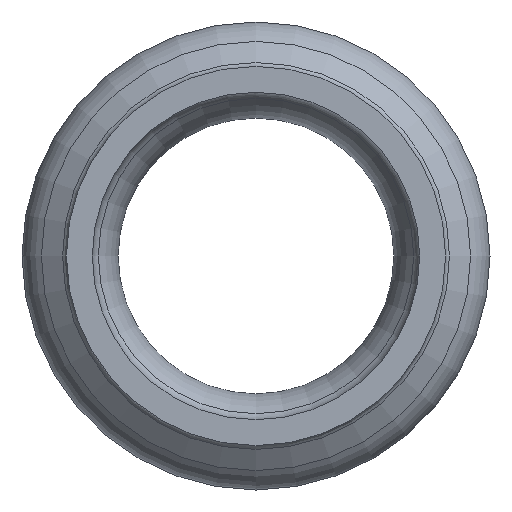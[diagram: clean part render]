
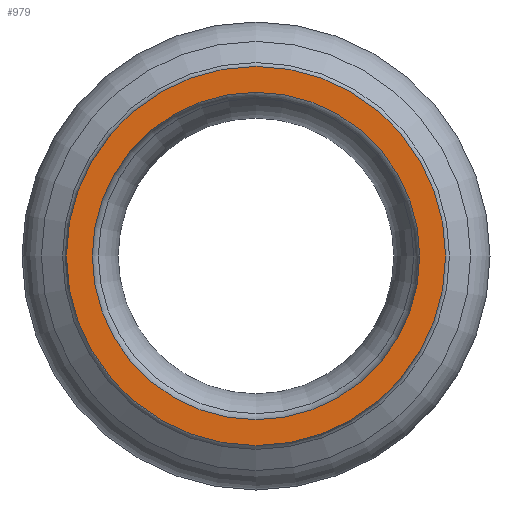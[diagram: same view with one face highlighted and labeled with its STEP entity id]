
A CAD part, left-side view. The second image highlights one B-rep face of the part: STEP entity #979.
In plain terms, the highlighted planar face has unit normal (-1, 0, 0).
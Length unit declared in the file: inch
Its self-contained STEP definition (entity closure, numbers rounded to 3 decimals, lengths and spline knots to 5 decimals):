
#46=FACE_BOUND('',#183,.T.);
#48=PLANE('',#1169);
#141=FACE_OUTER_BOUND('',#182,.T.);
#182=EDGE_LOOP('',(#868,#869));
#183=EDGE_LOOP('',(#870,#871));
#313=CIRCLE('',#1167,0.525);
#314=CIRCLE('',#1168,0.525);
#315=CIRCLE('',#1170,0.608);
#316=CIRCLE('',#1171,0.608);
#425=VERTEX_POINT('',#1867);
#426=VERTEX_POINT('',#1869);
#427=VERTEX_POINT('',#1873);
#428=VERTEX_POINT('',#1874);
#574=EDGE_CURVE('',#426,#425,#313,.T.);
#575=EDGE_CURVE('',#425,#426,#314,.T.);
#576=EDGE_CURVE('',#427,#428,#315,.T.);
#577=EDGE_CURVE('',#428,#427,#316,.T.);
#868=ORIENTED_EDGE('',*,*,#576,.F.);
#869=ORIENTED_EDGE('',*,*,#577,.F.);
#870=ORIENTED_EDGE('',*,*,#574,.T.);
#871=ORIENTED_EDGE('',*,*,#575,.T.);
#979=ADVANCED_FACE('',(#141,#46),#48,.T.);
#1167=AXIS2_PLACEMENT_3D('',#1870,#1537,#1538);
#1168=AXIS2_PLACEMENT_3D('',#1871,#1539,#1540);
#1169=AXIS2_PLACEMENT_3D('',#1872,#1541,#1542);
#1170=AXIS2_PLACEMENT_3D('',#1875,#1543,#1544);
#1171=AXIS2_PLACEMENT_3D('',#1876,#1545,#1546);
#1537=DIRECTION('center_axis',(1.,0.,0.));
#1538=DIRECTION('ref_axis',(0.,1.,0.));
#1539=DIRECTION('center_axis',(1.,0.,0.));
#1540=DIRECTION('ref_axis',(0.,1.,0.));
#1541=DIRECTION('center_axis',(-1.,0.,0.));
#1542=DIRECTION('ref_axis',(0.,0.,1.));
#1543=DIRECTION('center_axis',(1.,0.,0.));
#1544=DIRECTION('ref_axis',(0.,1.,0.));
#1545=DIRECTION('center_axis',(1.,0.,0.));
#1546=DIRECTION('ref_axis',(0.,1.,0.));
#1867=CARTESIAN_POINT('',(-1.39,-0.525,0.));
#1869=CARTESIAN_POINT('',(-1.39,0.525,0.));
#1870=CARTESIAN_POINT('Origin',(-1.39,0.,0.));
#1871=CARTESIAN_POINT('Origin',(-1.39,0.,0.));
#1872=CARTESIAN_POINT('Origin',(-1.39,0.5665,0.));
#1873=CARTESIAN_POINT('',(-1.39,0.608,0.));
#1874=CARTESIAN_POINT('',(-1.39,-0.608,0.));
#1875=CARTESIAN_POINT('Origin',(-1.39,0.,0.));
#1876=CARTESIAN_POINT('Origin',(-1.39,0.,0.));
